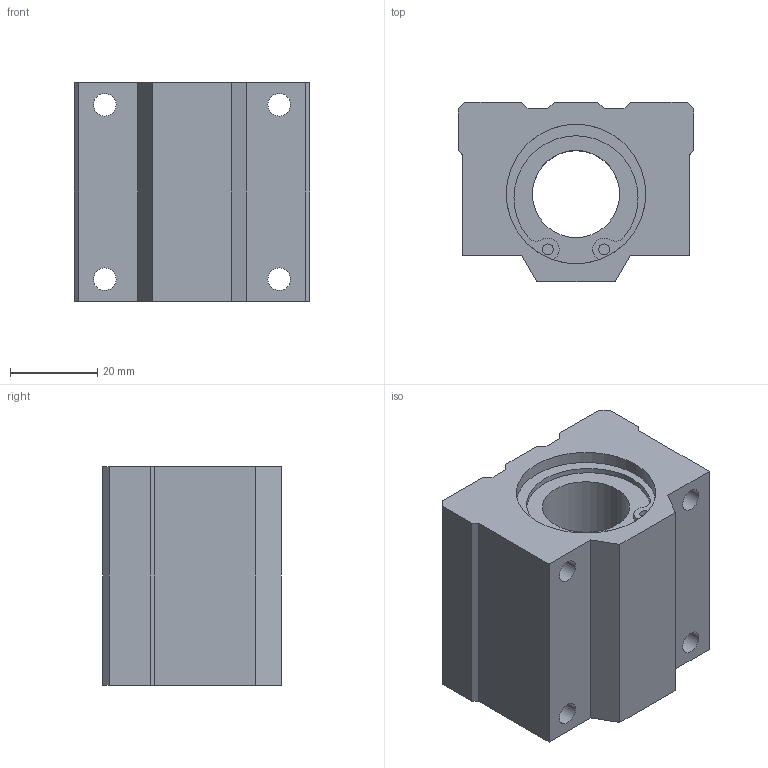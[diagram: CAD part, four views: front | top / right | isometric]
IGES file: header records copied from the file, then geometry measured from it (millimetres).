
Start section: 3D InterOp IGES (Version 21 0 1), Spatial Corp. Copyright (c) 1999-2007.
Global section: file name: LC-20VAUU.igs; native system: Spatial Corp.; preprocessor: 3D InterOp GENERIC/IGES 3.0; author: Noname; organization: Noname; date: 20220519.103648; units: millimetre
Bounding box: 54 x 41 x 50 mm (x, y, z)
Surface area: 18093.2 mm2 (no closed solid volume)
Topology: 0 solids, 0 shells, 86 faces, 452 edges, 452 vertices
Faces by surface type: revolution 50, extrusion 36
